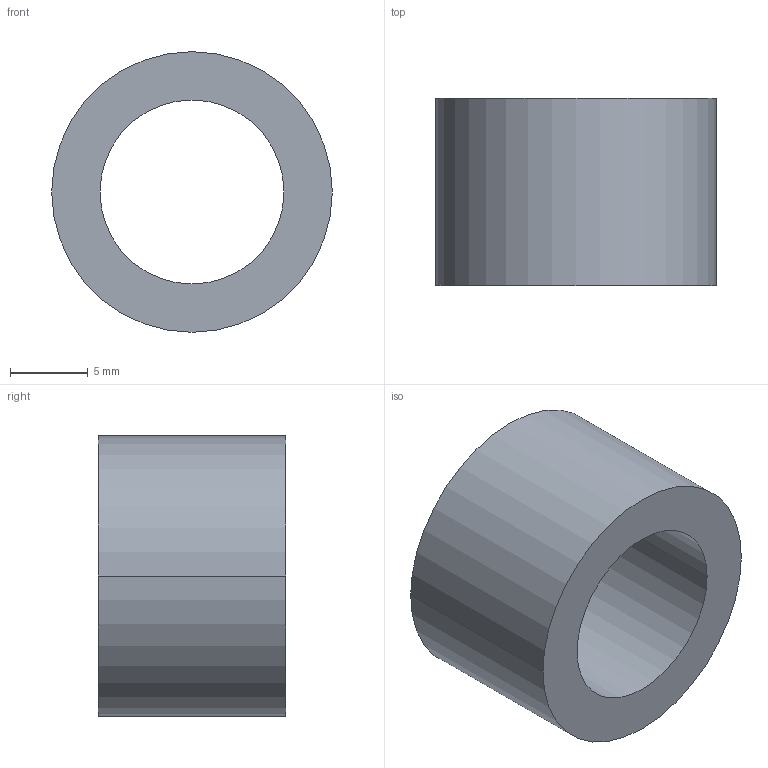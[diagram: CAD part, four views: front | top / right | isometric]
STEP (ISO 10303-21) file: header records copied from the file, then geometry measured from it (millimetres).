
FILE_DESCRIPTION (( 'STEP AP203' ), '1' );
FILE_NAME ('30800.WPP18E11.8.step', '2019-01-23T22:38:09', ( '' ), ( '' ), 'SwSTEP 2.0', 'SolidWorks 2017', '' );
FILE_SCHEMA (( 'CONFIG_CONTROL_DESIGN' ));
Length unit declared in the file: millimetre
Products named in the file (1): 30800.WPP18E11.8
Bounding box: 18 x 12 x 18 mm (x, y, z)
Volume: 1707.1 mm3; surface area: 1383.6 mm2
Topology: 1 solids, 1 shells, 8 faces, 16 edges, 10 vertices
Faces by surface type: cylinder 4, torus 2, plane 2
Entity records: 297 total; most frequent: DIRECTION 46, CARTESIAN_POINT 35, ORIENTED_EDGE 32, AXIS2_PLACEMENT_3D 21, EDGE_CURVE 16, CIRCLE 12, VERTEX_POINT 10, EDGE_LOOP 10
